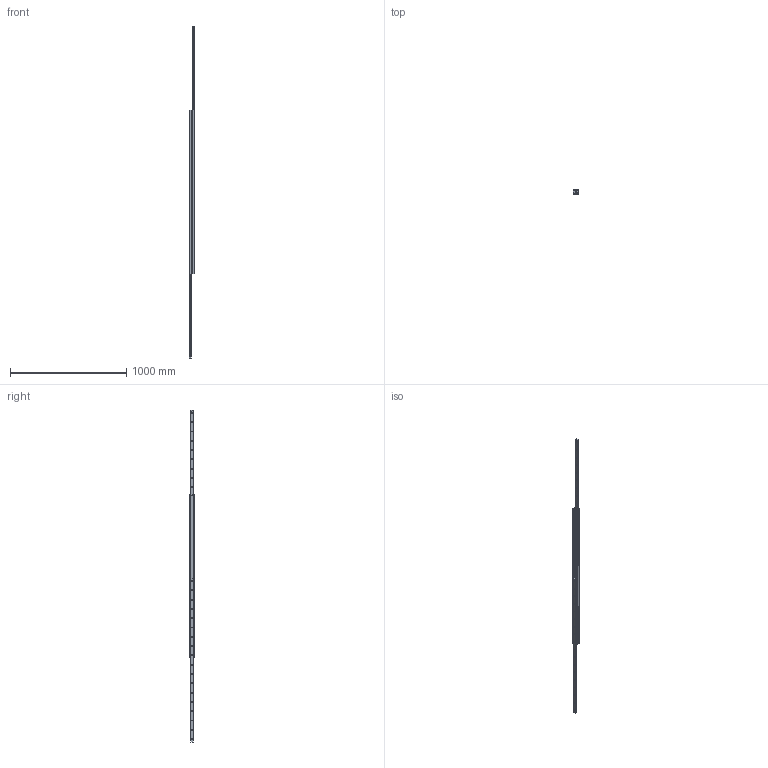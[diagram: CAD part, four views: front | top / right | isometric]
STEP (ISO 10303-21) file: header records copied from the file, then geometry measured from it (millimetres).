
FILE_DESCRIPTION( ( 'STEP AP214' ), '1' );
FILE_NAME( 'p:/temp/worker_94/temp/exporttempdir_5220_925_wA8E3/format_0/DEF43-14101446.stp', '2020-03-20T20:02:13', ( 'License CC BY-ND 4.0' ), ( 'CADENAS' ), ' ', 'PARTsolutions', ' ' );
FILE_SCHEMA( ( 'AUTOMOTIVE_DESIGN { 1 0 10303 214 1 1 1 1 }' ) );
Length unit declared in the file: millimetre
Products named in the file (4): DEF43-14101446; _43211410144612-gf; _4321141014461-ei; _43211410144611-gf
Assembly tree (4 placements, depth 2):
  DEF43-14101446
    _43211410144612-gf
    _4321141014461-ei  x2
    _43211410144611-gf
Bounding box: 44 x 43 x 2856 mm (x, y, z)
Volume: 1742817.7 mm3; surface area: 664132.5 mm2
Topology: 4 solids, 4 shells, 260 faces, 644 edges, 404 vertices
Faces by surface type: plane 102, cylinder 82, cone 76
Full cylindrical faces by diameter (mm): 4.134 x2, 6.647 x36, 7 x2
Entity records: 7572 total; most frequent: DIRECTION 1052, CARTESIAN_POINT 945, ORIENTED_EDGE 814, AXIS2_PLACEMENT_3D 428, EDGE_CURVE 407, EDGE_LOOP 404, VERTEX_POINT 321, FACE_OUTER_BOUND 250
